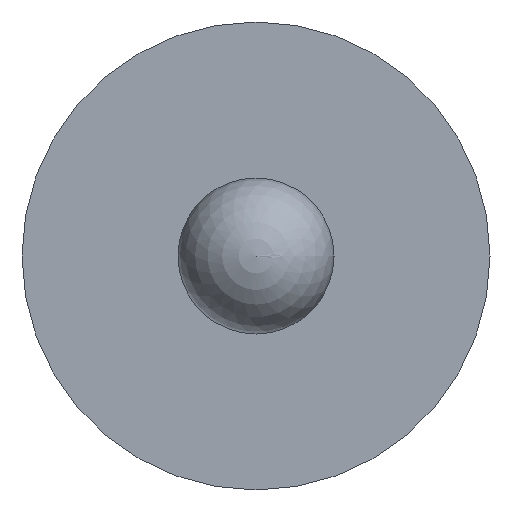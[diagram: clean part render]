
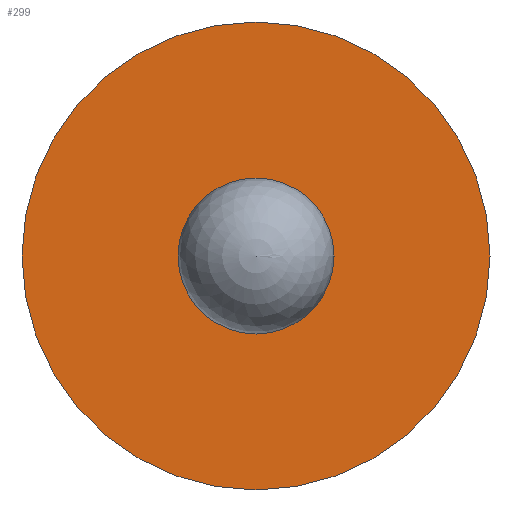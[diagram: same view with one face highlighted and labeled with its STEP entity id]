
A CAD part, front view. The second image highlights one B-rep face of the part: STEP entity #299.
In plain terms, the highlighted planar face has unit normal (0, -1, 0).
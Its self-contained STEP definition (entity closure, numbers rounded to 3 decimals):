
#7 = DIRECTION ( 'NONE',  ( 0., 1., 0. ) ) ;
#25 = CIRCLE ( 'NONE', #322, 0.5 ) ;
#58 = CARTESIAN_POINT ( 'NONE',  ( 0., -3.8, 0.5 ) ) ;
#61 = DIRECTION ( 'NONE',  ( 0., -1., 0. ) ) ;
#63 = VERTEX_POINT ( 'NONE', #139 ) ;
#65 = CARTESIAN_POINT ( 'NONE',  ( 0., -3.8, 0. ) ) ;
#66 = ORIENTED_EDGE ( 'NONE', *, *, #92, .F. ) ;
#67 = DIRECTION ( 'NONE',  ( 0., 0., 1. ) ) ;
#84 = EDGE_LOOP ( 'NONE', ( #197, #66 ) ) ;
#92 = EDGE_CURVE ( 'Arista6', #191, #125, #25, .T. ) ;
#99 = ORIENTED_EDGE ( 'NONE', *, *, #349, .F. ) ;
#110 = VERTEX_POINT ( 'NONE', #247 ) ;
#120 = EDGE_LOOP ( 'NONE', ( #99, #257 ) ) ;
#123 = DIRECTION ( 'NONE',  ( 0., 0., 1. ) ) ;
#124 = DIRECTION ( 'NONE',  ( 0., 0., 1. ) ) ;
#125 = VERTEX_POINT ( 'NONE', #58 ) ;
#126 = EDGE_CURVE ( 'Arista7', #63, #110, #341, .T. ) ;
#139 = CARTESIAN_POINT ( 'NONE',  ( 0., -3.8, -1.5 ) ) ;
#148 = CARTESIAN_POINT ( 'NONE',  ( 0., -3.8, 0. ) ) ;
#152 = DIRECTION ( 'NONE',  ( 0., 1., 0. ) ) ;
#160 = DIRECTION ( 'NONE',  ( 0., -1., 0. ) ) ;
#165 = CARTESIAN_POINT ( 'NONE',  ( 0., -3.8, 0. ) ) ;
#166 = DIRECTION ( 'NONE',  ( 0., 1., 0. ) ) ;
#173 = PLANE ( 'NONE',  #238 ) ;
#180 = DIRECTION ( 'NONE',  ( 0., 0., 1. ) ) ;
#183 = DIRECTION ( 'NONE',  ( 0., 0., 1. ) ) ;
#191 = VERTEX_POINT ( 'NONE', #311 ) ;
#193 = EDGE_CURVE ( 'Arista6', #125, #191, #334, .T. ) ;
#197 = ORIENTED_EDGE ( 'NONE', *, *, #193, .F. ) ;
#205 = CARTESIAN_POINT ( 'NONE',  ( 0., -3.8, 0. ) ) ;
#232 = CIRCLE ( 'NONE', #233, 1.5 ) ;
#233 = AXIS2_PLACEMENT_3D ( 'NONE', #148, #7, #123 ) ;
#238 = AXIS2_PLACEMENT_3D ( 'NONE', #276, #152, #124 ) ;
#239 = FACE_BOUND ( 'NONE', #84, .T. ) ;
#247 = CARTESIAN_POINT ( 'NONE',  ( 0., -3.8, 1.5 ) ) ;
#257 = ORIENTED_EDGE ( 'NONE', *, *, #126, .F. ) ;
#274 = FACE_OUTER_BOUND ( 'NONE', #120, .T. ) ;
#276 = CARTESIAN_POINT ( 'NONE',  ( 0., -3.8, 0. ) ) ;
#297 = AXIS2_PLACEMENT_3D ( 'NONE', #65, #61, #67 ) ;
#299 = ADVANCED_FACE ( 'NONE', ( #274, #239 ), #173, .F. ) ;
#306 = AXIS2_PLACEMENT_3D ( 'NONE', #165, #166, #180 ) ;
#311 = CARTESIAN_POINT ( 'NONE',  ( 0., -3.8, -0.5 ) ) ;
#322 = AXIS2_PLACEMENT_3D ( 'NONE', #205, #160, #183 ) ;
#334 = CIRCLE ( 'NONE', #297, 0.5 ) ;
#341 = CIRCLE ( 'NONE', #306, 1.5 ) ;
#349 = EDGE_CURVE ( 'Arista7', #110, #63, #232, .T. ) ;
